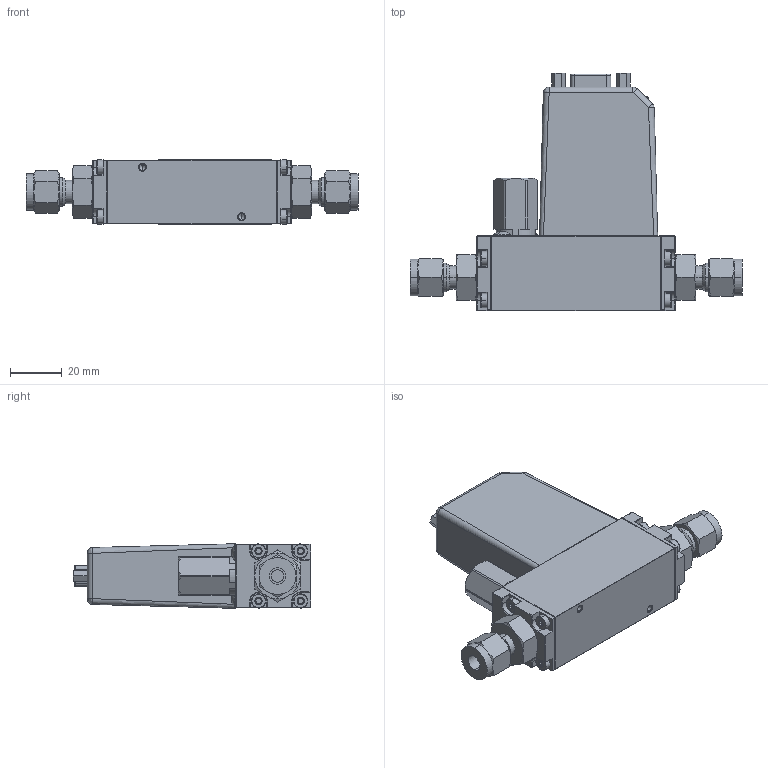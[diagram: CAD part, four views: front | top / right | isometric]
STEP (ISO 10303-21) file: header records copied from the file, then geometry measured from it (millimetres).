
FILE_DESCRIPTION (( 'STEP AP203' ), '1' );
FILE_NAME ('129275-_Publikationsmodell SFC5400_Swagelok-fourthinch.step', '2018-01-04T13:39:09', ( 'IT' ), ( '' ), 'SwSTEP 2.0', 'SolidWorks 2017', '' );
FILE_SCHEMA (( 'CONFIG_CONTROL_DESIGN' ));
Length unit declared in the file: millimetre
Products named in the file (8): 05_Zylinderschraube mit Innensechsrund ISO 14580_M03x08; 129275-_Publikationsmodell SFC5400_Swagelok-fourthinch; 129048; M03-0037_00; swa_SS-400-1-6ST_00; 129252_SFC5400_Swagelok-fourthinch; swa_SS-400-1-6ST-gekürzt_00; 129252_SFC5400_Swagelok-fourthinch_gek〉zt
Assembly tree (15 placements, depth 3):
  129275-_Publikationsmodell SFC5400_Swagelok-fourthinch
    129048
    129252_SFC5400_Swagelok-fourthinch
      M03-0037_00
      swa_SS-400-1-6ST_00
    129252_SFC5400_Swagelok-fourthinch_gek〉zt
      M03-0037_00
      swa_SS-400-1-6ST-gekürzt_00
    05_Zylinderschraube mit Innensechsrund ISO 14580_M03x08  x8
Bounding box: 127.71 x 91.2 x 24.8 mm (x, y, z)
Volume: 122196 mm3; surface area: 30595.9 mm2
Topology: 13 solids, 15 shells, 1453 faces, 3692 edges, 2303 vertices
Faces by surface type: plane 840, cylinder 330, cone 218, torus 41, bspline 20, sphere 4
Entity records: 36053 total; most frequent: CARTESIAN_POINT 7426, ORIENTED_EDGE 5832, DIRECTION 5560, EDGE_CURVE 2916, LINE 2194, VECTOR 2194, VERTEX_POINT 1842, AXIS2_PLACEMENT_3D 1683
